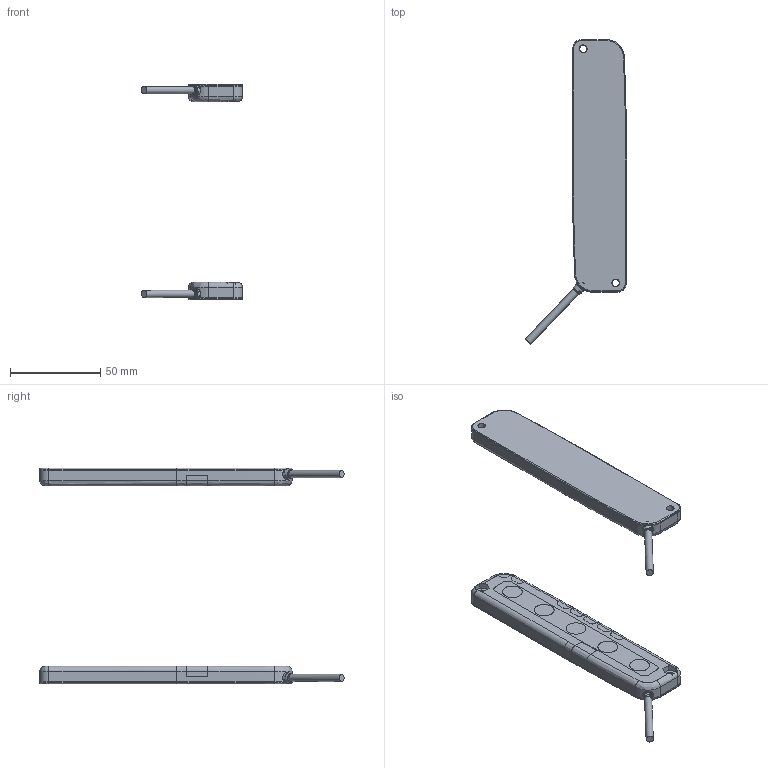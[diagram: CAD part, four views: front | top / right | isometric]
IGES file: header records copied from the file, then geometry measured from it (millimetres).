
Start section: SolidWorks IGES file using analytic representation for surfaces
Global section: file name: C:\Users\10118109\Desktop\档绢季辑, 俊府绢季辑\2瞒 累诀_荐沥\BWPK_SERIES\BWPK25-05_BWPK25-05P.IGS,15HSolidWorks; native system: 2018; preprocessor: SolidWorks 2018; author: 10118109; date: 190618.083022; units: millimetre
Bounding box: 56.1 x 168.93 x 119.8 mm (x, y, z)
Surface area: 23578.9 mm2 (no closed solid volume)
Topology: 0 solids, 0 shells, 262 faces, 3829 edges, 3811 vertices
Faces by surface type: bspline 178, revolution 84
